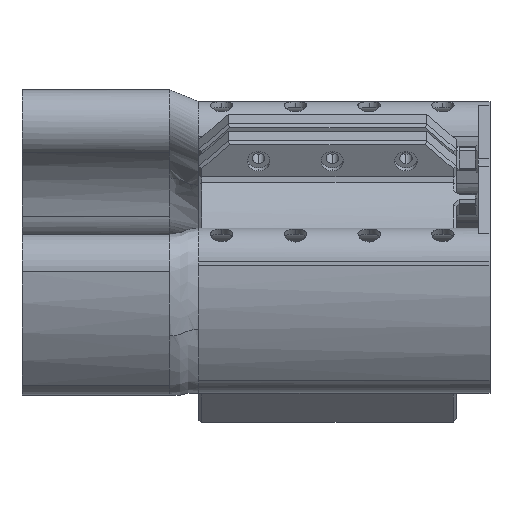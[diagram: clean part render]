
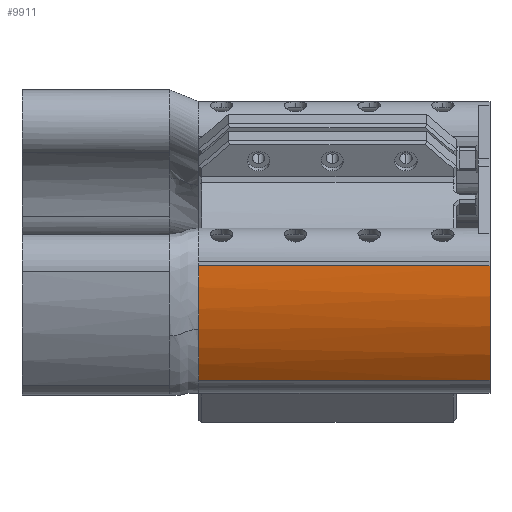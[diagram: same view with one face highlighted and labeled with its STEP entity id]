
A CAD part, top view. The second image highlights one B-rep face of the part: STEP entity #9911.
In plain terms, the highlighted cylindrical face has radius 62 mm (diameter 124 mm), a partial arc.
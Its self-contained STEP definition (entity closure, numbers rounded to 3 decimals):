
#24 = CARTESIAN_POINT ( 'NONE',  ( -67.248, -19.834, 58.773 ) ) ;
#123 = EDGE_CURVE ( 'NONE', #4733, #2931, #6021, .T. ) ;
#337 = CARTESIAN_POINT ( 'NONE',  ( -67.248, -21.632, 58.104 ) ) ;
#393 = CARTESIAN_POINT ( 'NONE',  ( -67.248, -38.855, 48.315 ) ) ;
#409 = CARTESIAN_POINT ( 'NONE',  ( 31.5, 0., 0. ) ) ;
#1517 = AXIS2_PLACEMENT_3D ( 'NONE', #409, #10045, #3938 ) ;
#1864 = CARTESIAN_POINT ( 'NONE',  ( -67.248, -26.293, 56.222 ) ) ;
#1897 = CARTESIAN_POINT ( 'NONE',  ( 31.5, -38.855, 48.315 ) ) ;
#2280 = LINE ( 'NONE', #13974, #3319 ) ;
#2415 = DIRECTION ( 'NONE',  ( -1., 0., 0. ) ) ;
#2426 = ORIENTED_EDGE ( 'NONE', *, *, #123, .F. ) ;
#2707 = EDGE_CURVE ( 'NONE', #11139, #4733, #2280, .T. ) ;
#2931 = VERTEX_POINT ( 'NONE', #5168 ) ;
#3037 = CARTESIAN_POINT ( 'NONE',  ( -67.248, -21.632, 58.104 ) ) ;
#3127 = CARTESIAN_POINT ( 'NONE',  ( 99.07, 0., 0. ) ) ;
#3199 = EDGE_CURVE ( 'NONE', #11042, #8265, #7043, .T. ) ;
#3319 = VECTOR ( 'NONE', #12885, 1000. ) ;
#3516 = CARTESIAN_POINT ( 'NONE',  ( 99.07, 0., 62. ) ) ;
#3898 = B_SPLINE_CURVE_WITH_KNOTS ( 'NONE', 3,
 ( #337, #24, #9903, #12198, #6286, #8506, #6133 ),
 .UNSPECIFIED., .F., .F.,
 ( 4, 1, 1, 1, 4 ),
 ( 0.468, 0.601, 0.734, 0.867, 0.97 ),
 .UNSPECIFIED. ) ;
#3938 = DIRECTION ( 'NONE',  ( 0., 0., 1. ) ) ;
#4386 = DIRECTION ( 'NONE',  ( 0., 0., 1. ) ) ;
#4733 = VERTEX_POINT ( 'NONE', #8463 ) ;
#5005 = EDGE_CURVE ( 'NONE', #11042, #11139, #8283, .T. ) ;
#5126 = ORIENTED_EDGE ( 'NONE', *, *, #6654, .F. ) ;
#5168 = CARTESIAN_POINT ( 'NONE',  ( -67.248, -21.632, 58.104 ) ) ;
#6021 = B_SPLINE_CURVE_WITH_KNOTS ( 'NONE', 3,
 ( #393, #6499, #12707, #12631, #1864, #12554, #3037 ),
 .UNSPECIFIED., .F., .F.,
 ( 4, 1, 1, 1, 4 ),
 ( 0., 0.117, 0.234, 0.351, 0.468 ),
 .UNSPECIFIED. ) ;
#6133 = CARTESIAN_POINT ( 'NONE',  ( -67.248, 0., 62. ) ) ;
#6286 = CARTESIAN_POINT ( 'NONE',  ( -67.248, -4.969, 61.874 ) ) ;
#6499 = CARTESIAN_POINT ( 'NONE',  ( -67.248, -37.547, 49.366 ) ) ;
#6654 = EDGE_CURVE ( 'NONE', #2931, #8265, #3898, .T. ) ;
#7043 = LINE ( 'NONE', #3516, #9353 ) ;
#7134 = ORIENTED_EDGE ( 'NONE', *, *, #5005, .F. ) ;
#8265 = VERTEX_POINT ( 'NONE', #15141 ) ;
#8283 = CIRCLE ( 'NONE', #1517, 62. ) ;
#8463 = CARTESIAN_POINT ( 'NONE',  ( -67.248, -38.855, 48.315 ) ) ;
#8506 = CARTESIAN_POINT ( 'NONE',  ( -67.248, -1.506, 62. ) ) ;
#9025 = CYLINDRICAL_SURFACE ( 'NONE', #13188, 62. ) ;
#9353 = VECTOR ( 'NONE', #2415, 1000. ) ;
#9903 = CARTESIAN_POINT ( 'NONE',  ( -67.248, -16.14, 59.958 ) ) ;
#9911 = ADVANCED_FACE ( 'NONE', ( #11302 ), #9025, .T. ) ;
#10045 = DIRECTION ( 'NONE',  ( 1., 0., 0. ) ) ;
#11022 = ORIENTED_EDGE ( 'NONE', *, *, #2707, .F. ) ;
#11042 = VERTEX_POINT ( 'NONE', #12289 ) ;
#11139 = VERTEX_POINT ( 'NONE', #1897 ) ;
#11302 = FACE_OUTER_BOUND ( 'NONE', #11873, .T. ) ;
#11873 = EDGE_LOOP ( 'NONE', ( #7134, #14684, #5126, #2426, #11022 ) ) ;
#12198 = CARTESIAN_POINT ( 'NONE',  ( -67.248, -10.389, 61.218 ) ) ;
#12289 = CARTESIAN_POINT ( 'NONE',  ( 31.5, 0., 62. ) ) ;
#12554 = CARTESIAN_POINT ( 'NONE',  ( -67.248, -23.215, 57.515 ) ) ;
#12631 = CARTESIAN_POINT ( 'NONE',  ( -67.248, -30.684, 53.95 ) ) ;
#12707 = CARTESIAN_POINT ( 'NONE',  ( -67.248, -34.875, 51.341 ) ) ;
#12885 = DIRECTION ( 'NONE',  ( -1., 0., 0. ) ) ;
#13188 = AXIS2_PLACEMENT_3D ( 'NONE', #3127, #15133, #4386 ) ;
#13974 = CARTESIAN_POINT ( 'NONE',  ( 99.07, -38.855, 48.315 ) ) ;
#14684 = ORIENTED_EDGE ( 'NONE', *, *, #3199, .T. ) ;
#15133 = DIRECTION ( 'NONE',  ( -1., 0., 0. ) ) ;
#15141 = CARTESIAN_POINT ( 'NONE',  ( -67.248, 0., 62. ) ) ;
